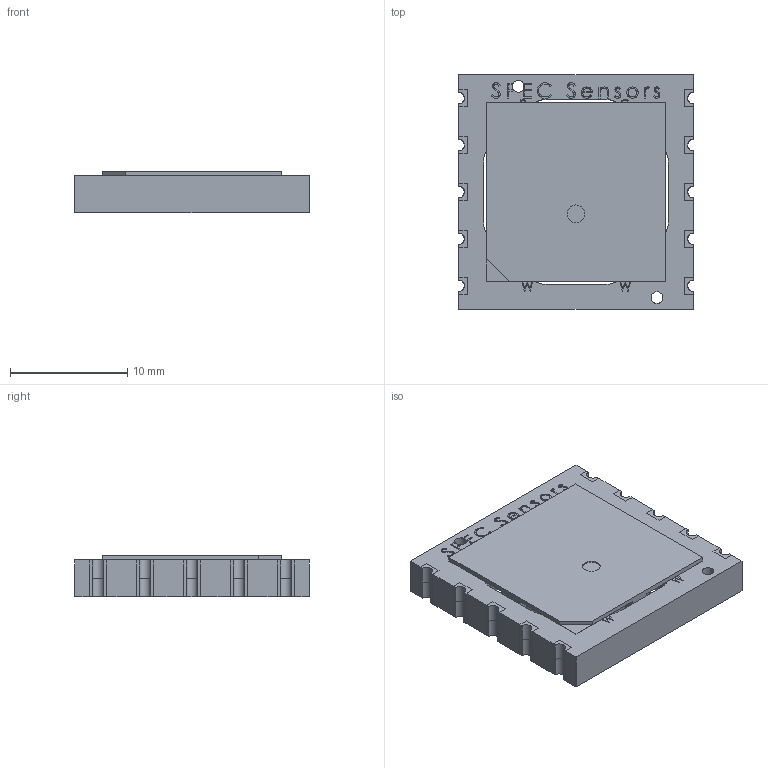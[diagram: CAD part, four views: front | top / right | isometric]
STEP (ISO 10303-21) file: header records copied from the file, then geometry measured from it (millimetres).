
FILE_DESCRIPTION (( 'STEP AP214' ), '1' );
FILE_NAME ('110-408 STEP.STEP', '2023-06-20T22:04:47', ( '' ), ( '' ), 'SwSTEP 2.0', 'SolidWorks 2017', '' );
FILE_SCHEMA (( 'AUTOMOTIVE_DESIGN' ));
Length unit declared in the file: millimetre
Products named in the file (4): 981-013; Zebra Barcode; 110-408 STEP; 100-402 STEP
Assembly tree (3 placements, depth 2):
  110-408 STEP
    100-402 STEP
    Zebra Barcode
    981-013
Bounding box: 20.01 x 20 x 3.51 mm (x, y, z)
Volume: 1083 mm3; surface area: 2146.8 mm2
Topology: 32 solids, 32 shells, 581 faces, 1549 edges, 1038 vertices
Faces by surface type: plane 361, bspline 123, cylinder 97
Full cylindrical faces by diameter (mm): 0.35 x1, 0.75 x24, 1 x10, 1.5 x1, 12 x1
Entity records: 27465 total; most frequent: CARTESIAN_POINT 9284, ORIENTED_EDGE 2992, DIRECTION 2372, EDGE_CURVE 1496, LINE 1056, VECTOR 1056, VERTEX_POINT 1022, EDGE_LOOP 700
